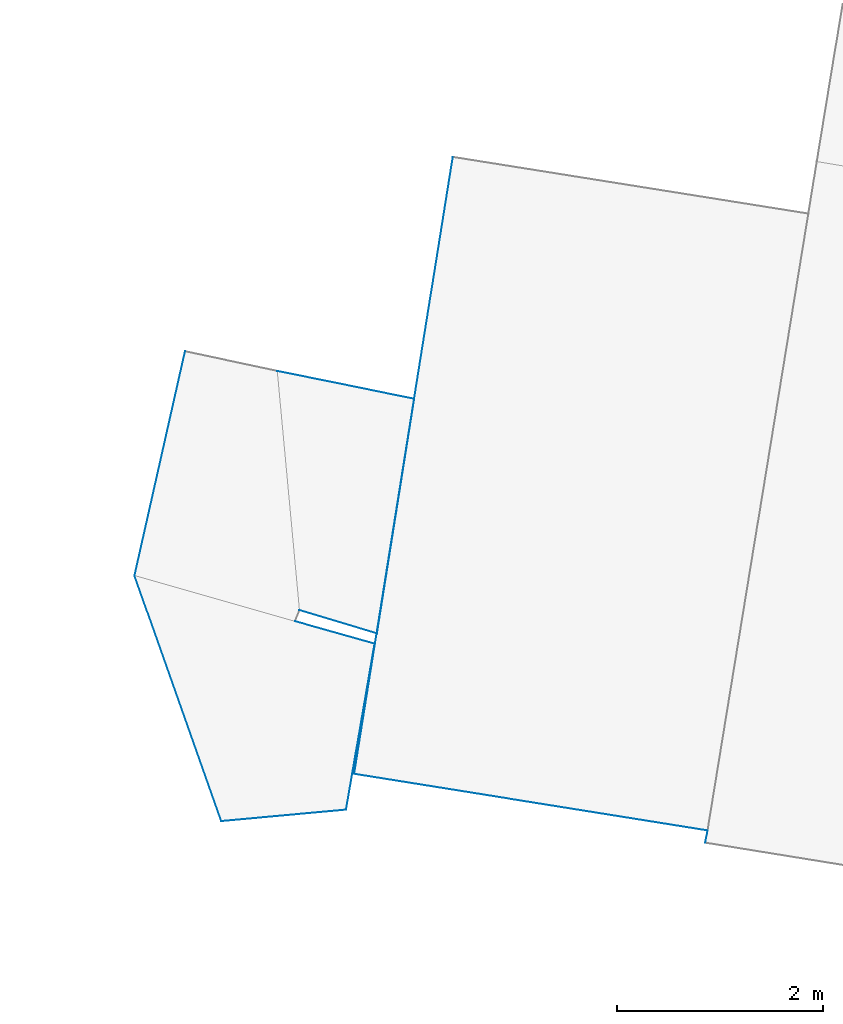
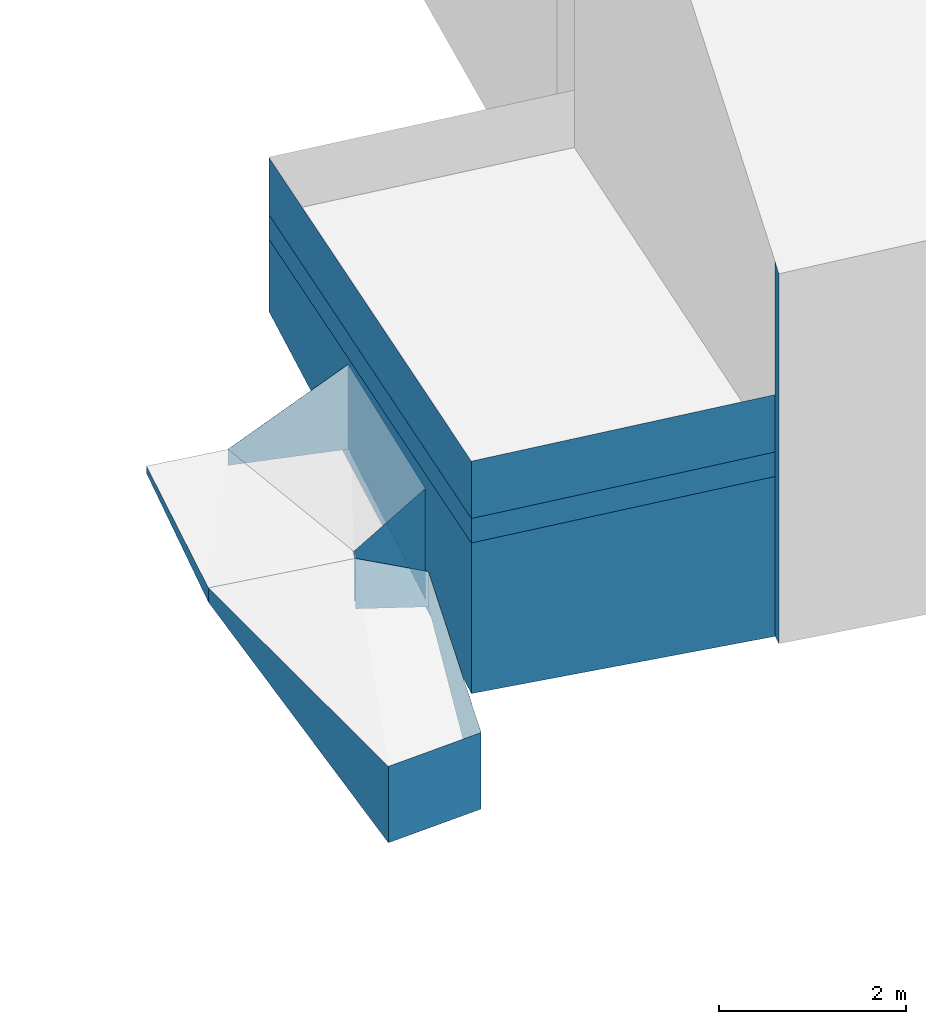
# Not in any storey, part 13 of 57: 17 walls.
"""IFC4 building model written with IfcOpenShell, lengths in metres."""

from ifc_helpers import new_model, entity, si_unit, converted_unit, origin, place, context, subcontext, project, spatial, face_set, surface_model, element, save


model = new_model("IFC4")

# Units and contexts
model_context = context("Model", 3, precision=1e-05, world=origin())
body_context = subcontext(model_context, "Body", "Model", "MODEL_VIEW")
ifc_project = project(units=[converted_unit("PLANEANGLEUNIT", "DEGREE", entity("IfcRatioMeasure", 0.0174532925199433), si_unit("PLANEANGLEUNIT", "RADIAN"), dimensions=[0, 0, 0, 0, 0, 0, 0]), si_unit("AREAUNIT", "SQUARE_METRE"), si_unit("LENGTHUNIT", "METRE")], contexts=[model_context])

# Site, building
site_placement = place(None, origin())
site = spatial("IfcSite", under=ifc_project, at=site_placement, Name="_site")
building_1_placement = place(site_placement, origin())
building_1 = spatial("IfcBuilding", under=site, at=building_1_placement, Name="_building")

# Wall
wall_1_placement = place(building_1_placement, origin())
element("IfcWall", 1, at=wall_1_placement, inside=building_1, Name="Wall", PredefinedType="NOTDEFINED", context=body_context, shape_type="SurfaceModel", body=[
    surface_model("IfcFaceBasedSurfaceModel", [(195.954, 86.641, 112.01), (195.977, 86.76, 112.09), (195.977, 86.76, 107.189), (195.954, 86.641, 107.172)], [face_set([[[0, 1, 2, 3]]])]),
])

# Building
building_2_placement = place(site_placement, origin())
building_2 = spatial("IfcBuilding", under=site, at=building_2_placement, Name="_building")

# Walls
wall_2_placement = place(building_2_placement, origin())
element("IfcWall", 2, at=wall_2_placement, inside=building_2, Name="Wall", PredefinedType="NOTDEFINED", context=body_context, shape_type="SurfaceModel", body=[
    surface_model("IfcFaceBasedSurfaceModel", [(192.538, 87.311, 109.6), (193.498, 93.313, 109.6), (193.498, 93.313, 109.28), (192.538, 87.311, 109.28)], [face_set([[[0, 1, 2, 3]]])]),
])
wall_3_placement = place(building_2_placement, origin())
element("IfcWall", 3, at=wall_3_placement, inside=building_2, Name="Wall", PredefinedType="NOTDEFINED", context=body_context, shape_type="SurfaceModel", body=[
    surface_model("IfcFaceBasedSurfaceModel", [(195.977, 86.76, 109.6), (192.538, 87.311, 109.6), (192.538, 87.311, 109.28), (195.977, 86.76, 109.28)], [face_set([[[0, 1, 2, 3]]])]),
])
wall_4_placement = place(building_2_placement, origin())
element("IfcWall", 4, at=wall_4_placement, inside=building_2, Name="Wall", PredefinedType="NOTDEFINED", context=body_context, shape_type="SurfaceModel", body=[
    surface_model("IfcFaceBasedSurfaceModel", [(191.962, 88.796, 108.38), (192.737, 88.577, 108.07), (192.737, 88.577, 107.607), (191.962, 88.796, 107.72)], [face_set([[[0, 1, 2, 3]]])]),
])
wall_5_placement = place(building_2_placement, origin())
element("IfcWall", 5, at=wall_5_placement, inside=building_2, Name="Wall", PredefinedType="NOTDEFINED", context=body_context, shape_type="SurfaceModel", body=[
    surface_model("IfcFaceBasedSurfaceModel", [(192.76, 88.677, 109.09), (192.005, 88.905, 108.39), (192.005, 88.905, 107.744), (192.76, 88.677, 107.63)], [face_set([[[0, 1, 2, 3]]])]),
])
wall_6_placement = place(building_2_placement, origin())
element("IfcWall", 6, at=wall_6_placement, inside=building_2, Name="Wall", PredefinedType="NOTDEFINED", context=body_context, shape_type="SurfaceModel", body=[
    surface_model("IfcFaceBasedSurfaceModel", [(193.123, 90.96, 109.2), (192.76, 88.677, 109.09), (192.76, 88.677, 107.63), (193.123, 90.96, 108.089)], [face_set([[[0, 1, 2, 3]]])]),
])
wall_7_placement = place(building_2_placement, origin())
element("IfcWall", 7, at=wall_7_placement, inside=building_2, Name="Wall", PredefinedType="NOTDEFINED", context=body_context, shape_type="SurfaceModel", body=[
    surface_model("IfcFaceBasedSurfaceModel", [(191.789, 91.231, 108.39), (193.123, 90.96, 109.2), (193.123, 90.96, 108.089), (191.789, 91.231, 108.178)], [face_set([[[0, 1, 2, 3]]])]),
])
wall_8_placement = place(building_2_placement, origin())
element("IfcWall", 8, at=wall_8_placement, inside=building_2, Name="Wall", PredefinedType="NOTDEFINED", context=body_context, shape_type="SurfaceModel", body=[
    surface_model("IfcFaceBasedSurfaceModel", [(190.401, 89.242, 108.27), (190.893, 91.422, 108.37), (190.893, 91.422, 108.275), (190.401, 89.242, 108.082)], [face_set([[[0, 1, 2, 3]]])]),
])
wall_9_placement = place(building_2_placement, origin())
element("IfcWall", 9, at=wall_9_placement, inside=building_2, Name="Wall", PredefinedType="NOTDEFINED", context=body_context, shape_type="SurfaceModel", body=[
    surface_model("IfcFaceBasedSurfaceModel", [(191.246, 86.851, 107.09), (190.401, 89.242, 108.27), (190.401, 89.242, 108.082), (191.246, 86.851, 106.09)], [face_set([[[0, 1, 2, 3]]])]),
])
wall_10_placement = place(building_2_placement, origin())
element("IfcWall", 10, at=wall_10_placement, inside=building_2, Name="Wall", PredefinedType="NOTDEFINED", context=body_context, shape_type="SurfaceModel", body=[
    surface_model("IfcFaceBasedSurfaceModel", [(192.459, 86.963, 107.04), (191.246, 86.851, 107.09), (191.246, 86.851, 106.09), (192.459, 86.963, 106.04)], [face_set([[[0, 1, 2, 3]]])]),
])
wall_11_placement = place(building_2_placement, origin())
element("IfcWall", 11, at=wall_11_placement, inside=building_2, Name="Wall", PredefinedType="NOTDEFINED", context=body_context, shape_type="SurfaceModel", body=[
    surface_model("IfcFaceBasedSurfaceModel", [(192.737, 88.577, 108.07), (192.459, 86.963, 107.04), (192.459, 86.963, 106.04), (192.737, 88.577, 107.607)], [face_set([[[0, 1, 2, 3]]])]),
])
wall_12_placement = place(building_2_placement, origin())
element("IfcWall", 12, at=wall_12_placement, inside=building_2, Name="Wall", PredefinedType="NOTDEFINED", context=body_context, shape_type="SurfaceModel", body=[
    surface_model("IfcFaceBasedSurfaceModel", [(192.538, 87.311, 109.28), (193.498, 93.313, 109.28), (193.498, 93.313, 108.334), (192.538, 87.311, 107.31)], [face_set([[[0, 1, 2, 3]]])]),
])
wall_13_placement = place(building_2_placement, origin())
element("IfcWall", 13, at=wall_13_placement, inside=building_2, Name="Wall", PredefinedType="NOTDEFINED", context=body_context, shape_type="SurfaceModel", body=[
    surface_model("IfcFaceBasedSurfaceModel", [(195.977, 86.76, 109.28), (192.538, 87.311, 109.28), (192.538, 87.311, 107.31), (195.977, 86.76, 107.189)], [face_set([[[0, 1, 2, 3]]])]),
])
wall_14_placement = place(building_2_placement, origin())
element("IfcWall", 14, at=wall_14_placement, inside=building_2, Name="Wall", PredefinedType="NOTDEFINED", context=body_context, shape_type="SurfaceModel", body=[
    surface_model("IfcFaceBasedSurfaceModel", [(192.538, 87.311, 109.6), (195.977, 86.76, 109.6), (195.977, 86.76, 110.35), (192.538, 87.311, 110.35)], [face_set([[[0, 1, 2, 3]]])]),
])
wall_15_placement = place(building_2_placement, origin())
element("IfcWall", 15, at=wall_15_placement, inside=building_2, Name="Wall", PredefinedType="NOTDEFINED", context=body_context, shape_type="SurfaceModel", body=[
    surface_model("IfcFaceBasedSurfaceModel", [(193.498, 93.313, 109.6), (192.538, 87.311, 109.6), (192.538, 87.311, 110.35), (193.498, 93.313, 110.35)], [face_set([[[0, 1, 2, 3]]])]),
])
wall_16_placement = place(building_2_placement, origin())
element("IfcWall", 16, at=wall_16_placement, inside=building_2, Name="Wall", PredefinedType="NOTDEFINED", context=body_context, shape_type="SurfaceModel", body=[
    surface_model("IfcFaceBasedSurfaceModel", [(192.538, 87.311, 109.6), (195.977, 86.76, 109.6), (195.977, 86.76, 110.35), (192.538, 87.311, 110.35)], [face_set([[[0, 1, 2, 3]]])]),
])
wall_17_placement = place(building_2_placement, origin())
element("IfcWall", 17, at=wall_17_placement, inside=building_2, Name="Wall", PredefinedType="NOTDEFINED", context=body_context, shape_type="SurfaceModel", body=[
    surface_model("IfcFaceBasedSurfaceModel", [(193.498, 93.313, 109.6), (192.538, 87.311, 109.6), (192.538, 87.311, 110.35), (193.498, 93.313, 110.35)], [face_set([[[0, 1, 2, 3]]])]),
])

save(model, "model.ifc")
